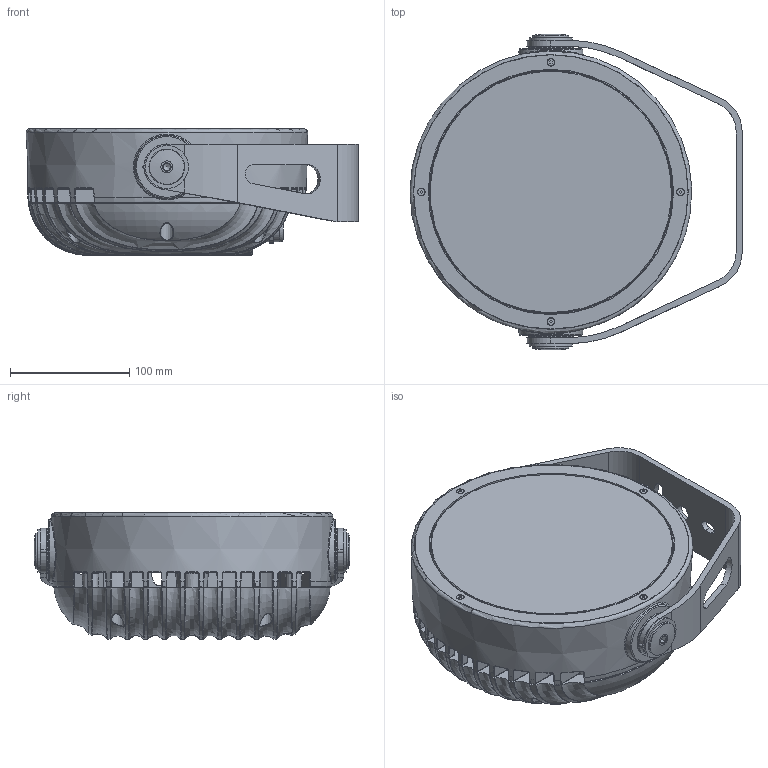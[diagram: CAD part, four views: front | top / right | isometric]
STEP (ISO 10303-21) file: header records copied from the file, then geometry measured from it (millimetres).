
FILE_DESCRIPTION(/* description */ ('Unknown'),/* implementation_level */ '2;1');
FILE_NAME(/* name */ 'Calumma-M',/* time_stamp */ '2022-09-30T09:10:40+02:00',/* author */ ('Unknown'),/* organization */ ('Unknown'),/* preprocessor_version */ 'ST-DEVELOPER v18.102',/* originating_system */ 'Solid Edge',/* authorisation */ 'Unknown');
FILE_SCHEMA (('AUTOMOTIVE_DESIGN {1 0 10303 214 3 1 1}'));
Products named in the file (4): Calumma-M; 11418309 Rameno Calumma - M; 12051722 Šroub ramene Calumma
Assembly tree (4 placements, depth 2):
  Calumma-M
    Calumma-M
    11418309 Rameno Calumma - M
    12051722 Šroub ramene Calumma  x2
Bounding box: 277.92 x 264.4 x 106 mm (x, y, z)
Volume: 3763601.2 mm3; surface area: 468920.4 mm2
Topology: 23 solids, 27 shells, 1390 faces, 3270 edges, 1888 vertices
Faces by surface type: cylinder 401, plane 341, torus 323, cone 138, bspline 113, sphere 74
Full cylindrical faces by diameter (mm): 2 x8, 3 x4, 3.242 x4, 3.6 x4, 5 x6, 6 x6, 6.1 x2, 6.168 x2, 6.498 x1, 6.568 x1, 7.4 x1, 8 x2, 8.5 x6, 12 x1, 13 x3, 13.2 x4, 13.6 x2, 16 x2, 17 x1, 20 x4, 23.5 x4, 30 x2, 36 x2, 203 x1, 205.3 x1, 210 x1, 229.6 x1, 230 x1
Entity records: 71827 total; most frequent: CARTESIAN_POINT 38965, ORIENTED_EDGE 5706, DIRECTION 5071, EDGE_CURVE 2853, AXIS2_PLACEMENT_3D 2212, VERTEX_POINT 1774, FACE_BOUND 1645, EDGE_LOOP 1633
